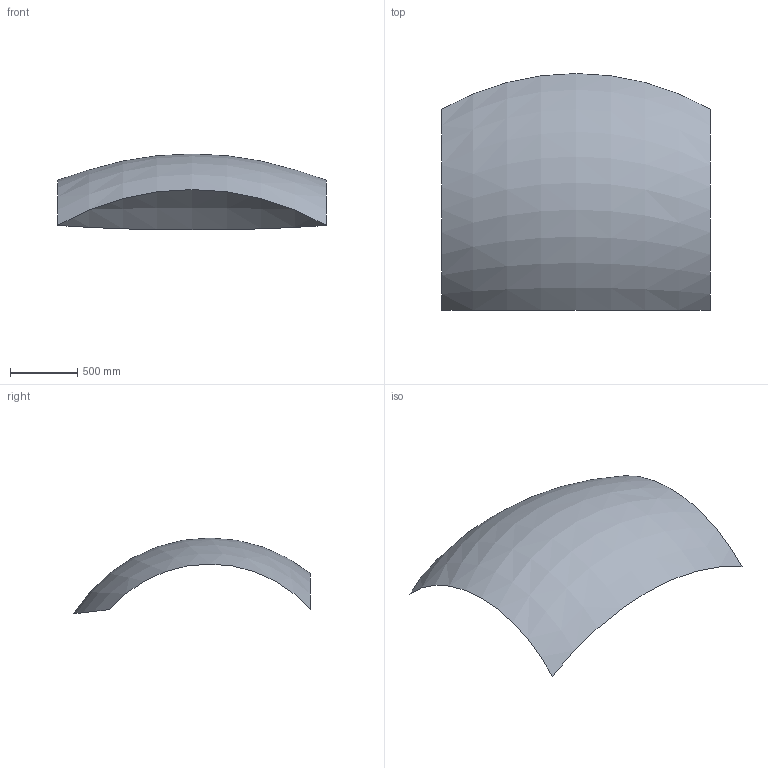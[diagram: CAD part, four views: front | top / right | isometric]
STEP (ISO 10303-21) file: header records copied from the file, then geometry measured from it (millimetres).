
FILE_DESCRIPTION(('FreeCAD Model'),'2;1');
FILE_NAME('C:/Users/SmithWi1/Downloads/SweptArcSuface.step', '2018-02-20T10:18:32',('Author'),(''), 'Open CASCADE STEP processor 6.8','FreeCAD','Unknown');
FILE_SCHEMA(('AUTOMOTIVE_DESIGN_CC2 { 1 2 10303 214 -1 1 5 4 }'));
Length unit declared in the file: millimetre
Products named in the file (1): Sweep
Bounding box: 2000 x 1765.85 x 566.32 mm (x, y, z)
Surface area: 3920763.8 mm2 (no closed solid volume)
Topology: 0 solids, 1 shells, 1 faces, 4 edges, 4 vertices
Faces by surface type: revolution 1
Entity records: 103 total; most frequent: DIRECTION 17, CARTESIAN_POINT 15, AXIS2_PLACEMENT_3D 6, CIRCLE 5, ORIENTED_EDGE 4, EDGE_CURVE 4, VERTEX_POINT 4, SURFACE_CURVE 4
